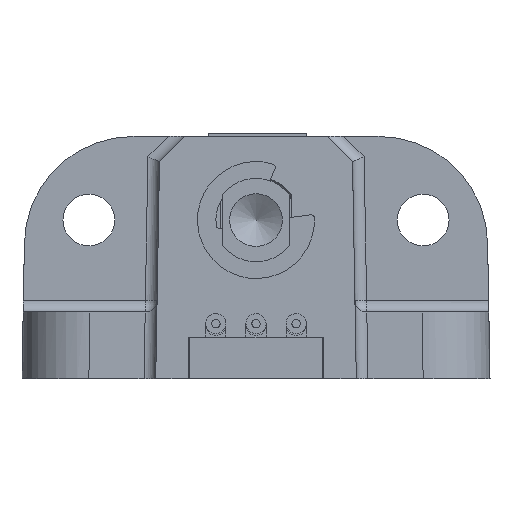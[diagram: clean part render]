
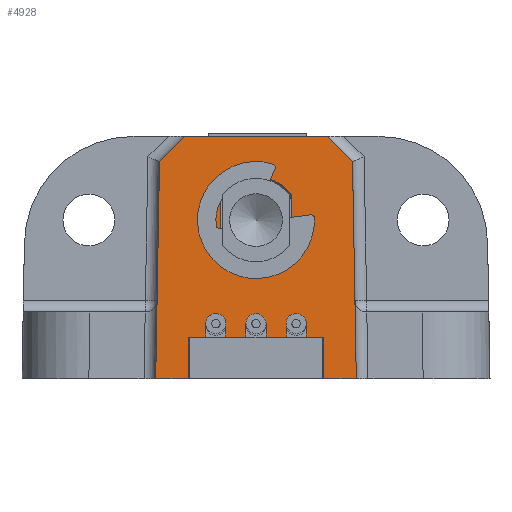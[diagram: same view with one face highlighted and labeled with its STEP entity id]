
A CAD part, front view. The second image highlights one B-rep face of the part: STEP entity #4928.
In plain terms, the highlighted planar face has unit normal (0, -1, 0.018).
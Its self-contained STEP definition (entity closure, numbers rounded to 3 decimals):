
#478=ELLIPSE('',#5697,0.6,0.6);
#479=ELLIPSE('',#5698,0.6,0.6);
#480=ELLIPSE('',#5699,0.601,0.601);
#481=ELLIPSE('',#5700,2.6,2.6);
#482=ELLIPSE('',#5701,2.6,2.6);
#519=ORIENTED_EDGE('',*,*,#1967,.T.);
#520=ORIENTED_EDGE('',*,*,#1968,.T.);
#521=ORIENTED_EDGE('',*,*,#1969,.T.);
#522=ORIENTED_EDGE('',*,*,#1970,.T.);
#523=ORIENTED_EDGE('',*,*,#1971,.T.);
#524=ORIENTED_EDGE('',*,*,#1972,.T.);
#525=ORIENTED_EDGE('',*,*,#1973,.T.);
#526=ORIENTED_EDGE('',*,*,#1974,.T.);
#527=ORIENTED_EDGE('',*,*,#1975,.T.);
#528=ORIENTED_EDGE('',*,*,#1976,.T.);
#529=ORIENTED_EDGE('',*,*,#1977,.T.);
#530=ORIENTED_EDGE('',*,*,#1978,.T.);
#531=ORIENTED_EDGE('',*,*,#1979,.T.);
#532=ORIENTED_EDGE('',*,*,#1980,.T.);
#533=ORIENTED_EDGE('',*,*,#1981,.T.);
#534=ORIENTED_EDGE('',*,*,#1982,.T.);
#535=ORIENTED_EDGE('',*,*,#1983,.T.);
#536=ORIENTED_EDGE('',*,*,#1984,.T.);
#537=ORIENTED_EDGE('',*,*,#1985,.T.);
#538=ORIENTED_EDGE('',*,*,#1986,.T.);
#539=ORIENTED_EDGE('',*,*,#1987,.T.);
#540=ORIENTED_EDGE('',*,*,#1988,.T.);
#541=ORIENTED_EDGE('',*,*,#1989,.T.);
#542=ORIENTED_EDGE('',*,*,#1990,.T.);
#543=ORIENTED_EDGE('',*,*,#1991,.T.);
#544=ORIENTED_EDGE('',*,*,#1992,.T.);
#1967=EDGE_CURVE('',#2691,#2692,#3173,.T.);
#1968=EDGE_CURVE('',#2692,#2693,#3174,.T.);
#1969=EDGE_CURVE('',#2693,#2694,#3175,.T.);
#1970=EDGE_CURVE('',#2694,#2695,#3176,.T.);
#1971=EDGE_CURVE('',#2695,#2696,#3177,.F.);
#1972=EDGE_CURVE('',#2696,#2697,#3178,.T.);
#1973=EDGE_CURVE('',#2697,#2698,#3179,.F.);
#1974=EDGE_CURVE('',#2698,#2699,#3180,.T.);
#1975=EDGE_CURVE('',#2699,#2700,#3181,.T.);
#1976=EDGE_CURVE('',#2700,#2701,#3182,.T.);
#1977=EDGE_CURVE('',#2701,#2702,#3183,.T.);
#1978=EDGE_CURVE('',#2702,#2703,#3184,.T.);
#1979=EDGE_CURVE('',#2703,#2704,#478,.F.);
#1980=EDGE_CURVE('',#2704,#2705,#3185,.T.);
#1981=EDGE_CURVE('',#2705,#2706,#3186,.T.);
#1982=EDGE_CURVE('',#2706,#2707,#3187,.T.);
#1983=EDGE_CURVE('',#2707,#2708,#479,.F.);
#1984=EDGE_CURVE('',#2708,#2709,#3188,.T.);
#1985=EDGE_CURVE('',#2709,#2710,#3189,.T.);
#1986=EDGE_CURVE('',#2710,#2711,#3190,.T.);
#1987=EDGE_CURVE('',#2711,#2712,#480,.F.);
#1988=EDGE_CURVE('',#2712,#2691,#3191,.T.);
#1989=EDGE_CURVE('',#2713,#2714,#3192,.T.);
#1990=EDGE_CURVE('',#2714,#2715,#481,.F.);
#1991=EDGE_CURVE('',#2715,#2716,#3193,.T.);
#1992=EDGE_CURVE('',#2716,#2713,#482,.F.);
#2691=VERTEX_POINT('',#7846);
#2692=VERTEX_POINT('',#7847);
#2693=VERTEX_POINT('',#7849);
#2694=VERTEX_POINT('',#7851);
#2695=VERTEX_POINT('',#7853);
#2696=VERTEX_POINT('',#7855);
#2697=VERTEX_POINT('',#7857);
#2698=VERTEX_POINT('',#7859);
#2699=VERTEX_POINT('',#7861);
#2700=VERTEX_POINT('',#7863);
#2701=VERTEX_POINT('',#7865);
#2702=VERTEX_POINT('',#7867);
#2703=VERTEX_POINT('',#7869);
#2704=VERTEX_POINT('',#7871);
#2705=VERTEX_POINT('',#7873);
#2706=VERTEX_POINT('',#7875);
#2707=VERTEX_POINT('',#7877);
#2708=VERTEX_POINT('',#7879);
#2709=VERTEX_POINT('',#7881);
#2710=VERTEX_POINT('',#7883);
#2711=VERTEX_POINT('',#7885);
#2712=VERTEX_POINT('',#7887);
#2713=VERTEX_POINT('',#7890);
#2714=VERTEX_POINT('',#7891);
#2715=VERTEX_POINT('',#7893);
#2716=VERTEX_POINT('',#7895);
#3173=LINE('',#7845,#3608);
#3174=LINE('',#7848,#3609);
#3175=LINE('',#7850,#3610);
#3176=LINE('',#7852,#3611);
#3177=LINE('',#7854,#3612);
#3178=LINE('',#7856,#3613);
#3179=LINE('',#7858,#3614);
#3180=LINE('',#7860,#3615);
#3181=LINE('',#7862,#3616);
#3182=LINE('',#7864,#3617);
#3183=LINE('',#7866,#3618);
#3184=LINE('',#7868,#3619);
#3185=LINE('',#7872,#3620);
#3186=LINE('',#7874,#3621);
#3187=LINE('',#7876,#3622);
#3188=LINE('',#7880,#3623);
#3189=LINE('',#7882,#3624);
#3190=LINE('',#7884,#3625);
#3191=LINE('',#7888,#3626);
#3192=LINE('',#7889,#3627);
#3193=LINE('',#7894,#3628);
#3608=VECTOR('',#6270,1000.);
#3609=VECTOR('',#6271,1000.);
#3610=VECTOR('',#6272,1000.);
#3611=VECTOR('',#6273,1000.);
#3612=VECTOR('',#6274,1000.);
#3613=VECTOR('',#6275,1000.);
#3614=VECTOR('',#6276,1000.);
#3615=VECTOR('',#6277,1000.);
#3616=VECTOR('',#6278,1000.);
#3617=VECTOR('',#6279,1000.);
#3618=VECTOR('',#6280,1000.);
#3619=VECTOR('',#6281,1000.);
#3620=VECTOR('',#6284,1000.);
#3621=VECTOR('',#6285,1000.);
#3622=VECTOR('',#6286,1000.);
#3623=VECTOR('',#6289,1000.);
#3624=VECTOR('',#6290,1000.);
#3625=VECTOR('',#6291,1000.);
#3626=VECTOR('',#6294,1000.);
#3627=VECTOR('',#6295,1000.);
#3628=VECTOR('',#6298,1000.);
#4043=EDGE_LOOP('',(#519,#520,#521,#522,#523,#524,#525,#526,#527,#528,#529,
#530,#531,#532,#533,#534,#535,#536,#537,#538,#539,#540));
#4044=EDGE_LOOP('',(#541,#542,#543,#544));
#4408=FACE_BOUND('',#4043,.T.);
#4409=FACE_BOUND('',#4044,.T.);
#4774=PLANE('',#5696);
#4928=ADVANCED_FACE('',(#4408,#4409),#4774,.T.);
#5696=AXIS2_PLACEMENT_3D('',#7844,#6268,#6269);
#5697=AXIS2_PLACEMENT_3D('',#7870,#6282,#6283);
#5698=AXIS2_PLACEMENT_3D('',#7878,#6287,#6288);
#5699=AXIS2_PLACEMENT_3D('',#7886,#6292,#6293);
#5700=AXIS2_PLACEMENT_3D('',#7892,#6296,#6297);
#5701=AXIS2_PLACEMENT_3D('',#7896,#6299,#6300);
#6268=DIRECTION('',(0.,-1.,0.017));
#6269=DIRECTION('',(0.,-0.017,-1.));
#6270=DIRECTION('',(1.,0.,0.));
#6271=DIRECTION('',(0.,-0.017,-1.));
#6272=DIRECTION('',(1.,0.,0.));
#6273=DIRECTION('',(-0.017,0.017,1.));
#6274=DIRECTION('',(0.713,-0.012,-0.701));
#6275=DIRECTION('',(-1.,0.,0.));
#6276=DIRECTION('',(0.713,0.012,0.701));
#6277=DIRECTION('',(-0.017,-0.017,-1.));
#6278=DIRECTION('',(1.,0.,0.));
#6279=DIRECTION('',(0.,0.017,1.));
#6280=DIRECTION('',(1.,0.,0.));
#6281=DIRECTION('',(0.,0.017,1.));
#6282=DIRECTION('',(0.,-1.,0.017));
#6283=DIRECTION('',(0.,-0.017,-1.));
#6284=DIRECTION('',(0.,-0.017,-1.));
#6285=DIRECTION('',(1.,0.,0.));
#6286=DIRECTION('',(0.,0.017,1.));
#6287=DIRECTION('',(0.,-1.,0.017));
#6288=DIRECTION('',(0.,-0.017,-1.));
#6289=DIRECTION('',(0.,-0.017,-1.));
#6290=DIRECTION('',(1.,0.,0.));
#6291=DIRECTION('',(0.,0.017,1.));
#6292=DIRECTION('',(0.,-1.,0.017));
#6293=DIRECTION('',(0.,-0.017,-1.));
#6294=DIRECTION('',(0.,-0.017,-1.));
#6295=DIRECTION('',(0.,0.017,1.));
#6296=DIRECTION('',(0.,-1.,0.017));
#6297=DIRECTION('',(0.,-0.017,-1.));
#6298=DIRECTION('',(0.,-0.017,-1.));
#6299=DIRECTION('',(0.,-1.,0.017));
#6300=DIRECTION('',(0.,-0.017,-1.));
#7844=CARTESIAN_POINT('',(0.,0.,-7.25));
#7845=CARTESIAN_POINT('',(0.,0.044,-4.75));
#7846=CARTESIAN_POINT('',(3.001,0.044,-4.75));
#7847=CARTESIAN_POINT('',(4.05,0.044,-4.75));
#7848=CARTESIAN_POINT('',(4.05,0.,-7.25));
#7849=CARTESIAN_POINT('',(4.05,0.,-7.25));
#7850=CARTESIAN_POINT('',(0.,0.,-7.25));
#7851=CARTESIAN_POINT('',(6.,0.,-7.25));
#7852=CARTESIAN_POINT('',(5.998,0.002,-7.145));
#7853=CARTESIAN_POINT('',(5.773,0.227,5.75));
#7854=CARTESIAN_POINT('',(9.337,0.166,2.248));
#7855=CARTESIAN_POINT('',(4.247,0.253,7.25));
#7856=CARTESIAN_POINT('',(0.,0.253,7.25));
#7857=CARTESIAN_POINT('',(-4.247,0.253,7.25));
#7858=CARTESIAN_POINT('',(-9.337,0.166,2.248));
#7859=CARTESIAN_POINT('',(-5.773,0.227,5.75));
#7860=CARTESIAN_POINT('',(-5.998,0.002,-7.145));
#7861=CARTESIAN_POINT('',(-6.,0.,-7.25));
#7862=CARTESIAN_POINT('',(0.,0.,-7.25));
#7863=CARTESIAN_POINT('',(-4.05,0.,-7.25));
#7864=CARTESIAN_POINT('',(-4.05,0.,-7.25));
#7865=CARTESIAN_POINT('',(-4.05,0.044,-4.75));
#7866=CARTESIAN_POINT('',(0.,0.044,-4.75));
#7867=CARTESIAN_POINT('',(-3.,0.044,-4.75));
#7868=CARTESIAN_POINT('',(-3.,0.,-7.25));
#7869=CARTESIAN_POINT('',(-3.,0.058,-3.95));
#7870=CARTESIAN_POINT('',(-2.4,0.058,-3.95));
#7871=CARTESIAN_POINT('',(-1.8,0.058,-3.95));
#7872=CARTESIAN_POINT('',(-1.8,0.,-7.25));
#7873=CARTESIAN_POINT('',(-1.8,0.044,-4.75));
#7874=CARTESIAN_POINT('',(0.,0.044,-4.75));
#7875=CARTESIAN_POINT('',(-0.6,0.044,-4.75));
#7876=CARTESIAN_POINT('',(-0.6,0.,-7.25));
#7877=CARTESIAN_POINT('',(-0.6,0.058,-3.95));
#7878=CARTESIAN_POINT('',(0.,0.058,-3.95));
#7879=CARTESIAN_POINT('',(0.6,0.058,-3.95));
#7880=CARTESIAN_POINT('',(0.6,0.,-7.25));
#7881=CARTESIAN_POINT('',(0.6,0.044,-4.75));
#7882=CARTESIAN_POINT('',(0.,0.044,-4.75));
#7883=CARTESIAN_POINT('',(1.8,0.044,-4.75));
#7884=CARTESIAN_POINT('',(1.8,0.,-7.25));
#7885=CARTESIAN_POINT('',(1.8,0.058,-3.95));
#7886=CARTESIAN_POINT('',(2.401,0.058,-3.95));
#7887=CARTESIAN_POINT('',(3.001,0.058,-3.95));
#7888=CARTESIAN_POINT('',(3.001,0.,-7.25));
#7889=CARTESIAN_POINT('',(-2.1,0.,-7.25));
#7890=CARTESIAN_POINT('',(-2.1,0.139,0.717));
#7891=CARTESIAN_POINT('',(-2.1,0.193,3.783));
#7892=CARTESIAN_POINT('',(0.,0.166,2.25));
#7893=CARTESIAN_POINT('',(2.1,0.193,3.783));
#7894=CARTESIAN_POINT('',(2.1,0.,-7.25));
#7895=CARTESIAN_POINT('',(2.1,0.139,0.717));
#7896=CARTESIAN_POINT('',(0.,0.166,2.25));
